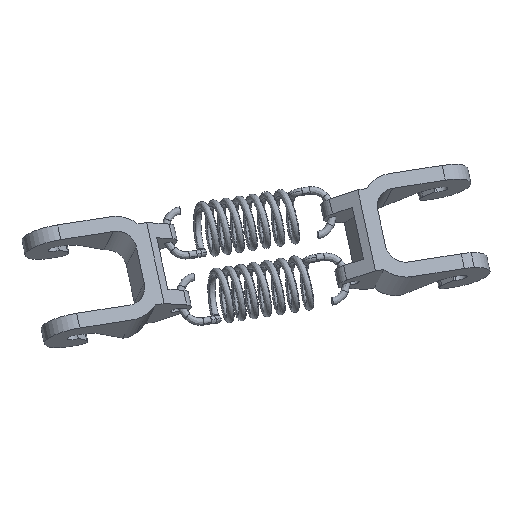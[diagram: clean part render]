
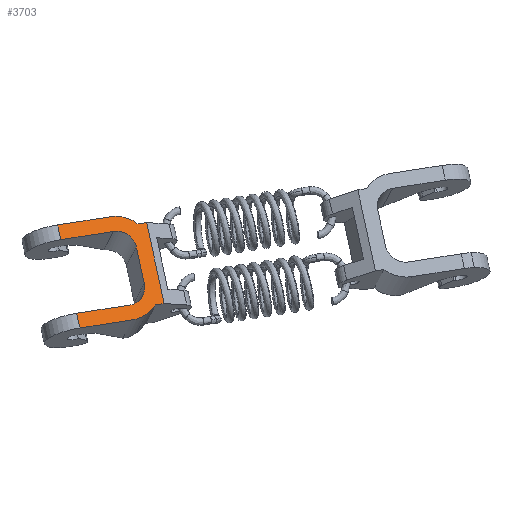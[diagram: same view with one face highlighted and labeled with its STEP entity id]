
A CAD part, isometric view. The second image highlights one B-rep face of the part: STEP entity #3703.
In plain terms, the highlighted planar face has unit normal (-0.309, -0.535, 0.786).
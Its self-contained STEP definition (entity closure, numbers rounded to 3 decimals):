
#63 = EDGE_CURVE ( 'NONE', #5328, #1477, #9023, .T. ) ;
#128 = EDGE_CURVE ( 'NONE', #10073, #5153, #7569, .T. ) ;
#378 = DIRECTION ( 'NONE',  ( -0.309, -0.535, 0.786 ) ) ;
#434 = ORIENTED_EDGE ( 'NONE', *, *, #9307, .F. ) ;
#668 = EDGE_CURVE ( 'NONE', #11157, #1309, #6870, .T. ) ;
#728 = ORIENTED_EDGE ( 'NONE', *, *, #668, .T. ) ;
#930 = EDGE_LOOP ( 'NONE', ( #6616, #434, #8939, #10645, #1038, #6820, #7020, #6173, #1444, #2699, #3812, #7501, #728, #8091, #1712, #5124 ) ) ;
#971 = CARTESIAN_POINT ( 'NONE',  ( -72.423, -53.44, -876.67 ) ) ;
#1038 = ORIENTED_EDGE ( 'NONE', *, *, #5462, .F. ) ;
#1153 = VECTOR ( 'NONE', #4285, 1000. ) ;
#1234 = LINE ( 'NONE', #4969, #4423 ) ;
#1236 = VECTOR ( 'NONE', #11167, 1000. ) ;
#1309 = VERTEX_POINT ( 'NONE', #7170 ) ;
#1444 = ORIENTED_EDGE ( 'NONE', *, *, #2400, .F. ) ;
#1477 = VERTEX_POINT ( 'NONE', #7293 ) ;
#1580 = VERTEX_POINT ( 'NONE', #8310 ) ;
#1608 = VECTOR ( 'NONE', #10403, 1000. ) ;
#1680 = CIRCLE ( 'NONE', #10322, 5. ) ;
#1712 = ORIENTED_EDGE ( 'NONE', *, *, #7425, .F. ) ;
#1807 = VECTOR ( 'NONE', #2788, 1000. ) ;
#1809 = VERTEX_POINT ( 'NONE', #4462 ) ;
#2010 = CARTESIAN_POINT ( 'NONE',  ( -75.114, -30.101, -861.836 ) ) ;
#2056 = EDGE_CURVE ( 'NONE', #6232, #1580, #7006, .T. ) ;
#2085 = VECTOR ( 'NONE', #10775, 1000. ) ;
#2114 = CARTESIAN_POINT ( 'NONE',  ( -62.989, -37.101, -861.836 ) ) ;
#2116 = DIRECTION ( 'NONE',  ( 0.309, 0.535, -0.786 ) ) ;
#2359 = LINE ( 'NONE', #4112, #1153 ) ;
#2398 = CARTESIAN_POINT ( 'NONE',  ( -68.885, -47.313, -871.107 ) ) ;
#2400 = EDGE_CURVE ( 'NONE', #1477, #8970, #3925, .T. ) ;
#2441 = CIRCLE ( 'NONE', #9160, 9. ) ;
#2474 = EDGE_CURVE ( 'NONE', #1809, #6962, #1680, .T. ) ;
#2635 = DIRECTION ( 'NONE',  ( 0.309, 0.535, -0.786 ) ) ;
#2687 = CARTESIAN_POINT ( 'NONE',  ( -68.885, -47.313, -871.107 ) ) ;
#2699 = ORIENTED_EDGE ( 'NONE', *, *, #63, .F. ) ;
#2788 = DIRECTION ( 'NONE',  ( -0.866, 0.5, 0. ) ) ;
#2794 = EDGE_CURVE ( 'NONE', #7813, #5328, #2441, .T. ) ;
#2965 = DIRECTION ( 'NONE',  ( 0.309, 0.535, -0.786 ) ) ;
#3053 = DIRECTION ( 'NONE',  ( 0., -0.827, -0.563 ) ) ;
#3077 = CARTESIAN_POINT ( 'NONE',  ( -68.885, -47.313, -871.107 ) ) ;
#3187 = LINE ( 'NONE', #3241, #3302 ) ;
#3241 = CARTESIAN_POINT ( 'NONE',  ( -75.114, -30.101, -861.836 ) ) ;
#3302 = VECTOR ( 'NONE', #10567, 1000. ) ;
#3577 = CARTESIAN_POINT ( 'NONE',  ( -68.885, -54.752, -876.173 ) ) ;
#3703 = ADVANCED_FACE ( 'NONE', ( #8425 ), #10353, .F. ) ;
#3812 = ORIENTED_EDGE ( 'NONE', *, *, #2794, .F. ) ;
#3890 = CARTESIAN_POINT ( 'NONE',  ( -65.434, -54.752, -874.816 ) ) ;
#3925 = LINE ( 'NONE', #8313, #5889 ) ;
#4112 = CARTESIAN_POINT ( 'NONE',  ( -63.45, -55.898, -874.816 ) ) ;
#4285 = DIRECTION ( 'NONE',  ( 0.393, 0.681, 0.618 ) ) ;
#4301 = DIRECTION ( 'NONE',  ( -0.309, -0.535, 0.786 ) ) ;
#4423 = VECTOR ( 'NONE', #7603, 1000. ) ;
#4462 = CARTESIAN_POINT ( 'NONE',  ( -68.885, -51.446, -873.921 ) ) ;
#4517 = EDGE_CURVE ( 'NONE', #11157, #7813, #11098, .T. ) ;
#4581 = LINE ( 'NONE', #2114, #6928 ) ;
#4646 = DIRECTION ( 'NONE',  ( -0.866, 0.5, 0. ) ) ;
#4777 = CARTESIAN_POINT ( 'NONE',  ( -54.802, -40.92, -861.218 ) ) ;
#4824 = CARTESIAN_POINT ( 'NONE',  ( -64.955, -40.505, -864.927 ) ) ;
#4969 = CARTESIAN_POINT ( 'NONE',  ( -56.787, -39.774, -861.218 ) ) ;
#5091 = CARTESIAN_POINT ( 'NONE',  ( -70.851, -50.717, -874.198 ) ) ;
#5124 = ORIENTED_EDGE ( 'NONE', *, *, #9672, .F. ) ;
#5148 = EDGE_CURVE ( 'NONE', #7161, #1809, #10512, .T. ) ;
#5153 = VERTEX_POINT ( 'NONE', #6159 ) ;
#5314 = VERTEX_POINT ( 'NONE', #7822 ) ;
#5328 = VERTEX_POINT ( 'NONE', #11309 ) ;
#5354 = CARTESIAN_POINT ( 'NONE',  ( -64.955, -40.505, -864.927 ) ) ;
#5462 = EDGE_CURVE ( 'NONE', #6962, #6232, #11786, .T. ) ;
#5763 = CARTESIAN_POINT ( 'NONE',  ( -64.555, -49.813, -871.107 ) ) ;
#5836 = CARTESIAN_POINT ( 'NONE',  ( -68.885, -47.313, -871.107 ) ) ;
#5889 = VECTOR ( 'NONE', #10360, 1000. ) ;
#5910 = AXIS2_PLACEMENT_3D ( 'NONE', #2687, #4301, #11614 ) ;
#5945 = DIRECTION ( 'NONE',  ( 0.309, 0.535, -0.786 ) ) ;
#6159 = CARTESIAN_POINT ( 'NONE',  ( -61.417, -34.378, -859.364 ) ) ;
#6173 = ORIENTED_EDGE ( 'NONE', *, *, #6217, .F. ) ;
#6217 = EDGE_CURVE ( 'NONE', #8970, #7161, #8632, .T. ) ;
#6232 = VERTEX_POINT ( 'NONE', #8927 ) ;
#6614 = DIRECTION ( 'NONE',  ( 0., -0.827, -0.563 ) ) ;
#6616 = ORIENTED_EDGE ( 'NONE', *, *, #128, .F. ) ;
#6619 = DIRECTION ( 'NONE',  ( 0., 0.827, 0.563 ) ) ;
#6754 = CIRCLE ( 'NONE', #7701, 9. ) ;
#6820 = ORIENTED_EDGE ( 'NONE', *, *, #2474, .F. ) ;
#6870 = LINE ( 'NONE', #7498, #1236 ) ;
#6928 = VECTOR ( 'NONE', #4646, 1000. ) ;
#6962 = VERTEX_POINT ( 'NONE', #5763 ) ;
#7006 = CIRCLE ( 'NONE', #8361, 5. ) ;
#7020 = ORIENTED_EDGE ( 'NONE', *, *, #5148, .F. ) ;
#7161 = VERTEX_POINT ( 'NONE', #5091 ) ;
#7170 = CARTESIAN_POINT ( 'NONE',  ( -63.45, -55.898, -874.816 ) ) ;
#7193 = CARTESIAN_POINT ( 'NONE',  ( -68.885, -47.313, -871.107 ) ) ;
#7246 = AXIS2_PLACEMENT_3D ( 'NONE', #7193, #2635, #3053 ) ;
#7293 = CARTESIAN_POINT ( 'NONE',  ( -84.547, -46.44, -876.67 ) ) ;
#7339 = DIRECTION ( 'NONE',  ( 0., -0.827, -0.563 ) ) ;
#7425 = EDGE_CURVE ( 'NONE', #5314, #10055, #1234, .T. ) ;
#7498 = CARTESIAN_POINT ( 'NONE',  ( -65.434, -54.752, -874.816 ) ) ;
#7501 = ORIENTED_EDGE ( 'NONE', *, *, #4517, .F. ) ;
#7569 = LINE ( 'NONE', #8418, #1608 ) ;
#7603 = DIRECTION ( 'NONE',  ( 0.866, -0.5, 0. ) ) ;
#7701 = AXIS2_PLACEMENT_3D ( 'NONE', #4824, #2116, #6614 ) ;
#7813 = VERTEX_POINT ( 'NONE', #3577 ) ;
#7822 = CARTESIAN_POINT ( 'NONE',  ( -56.787, -39.774, -861.218 ) ) ;
#8091 = ORIENTED_EDGE ( 'NONE', *, *, #8124, .T. ) ;
#8124 = EDGE_CURVE ( 'NONE', #1309, #10055, #2359, .T. ) ;
#8170 = CARTESIAN_POINT ( 'NONE',  ( -82.975, -43.717, -874.198 ) ) ;
#8310 = CARTESIAN_POINT ( 'NONE',  ( -62.989, -37.101, -861.836 ) ) ;
#8313 = CARTESIAN_POINT ( 'NONE',  ( -84.547, -46.44, -876.67 ) ) ;
#8361 = AXIS2_PLACEMENT_3D ( 'NONE', #5354, #9206, #7339 ) ;
#8418 = CARTESIAN_POINT ( 'NONE',  ( -73.542, -27.378, -859.364 ) ) ;
#8425 = FACE_OUTER_BOUND ( 'NONE', #930, .T. ) ;
#8632 = LINE ( 'NONE', #10610, #9387 ) ;
#8664 = CARTESIAN_POINT ( 'NONE',  ( -73.542, -27.378, -859.364 ) ) ;
#8796 = AXIS2_PLACEMENT_3D ( 'NONE', #3077, #2965, #6619 ) ;
#8809 = DIRECTION ( 'NONE',  ( 0.866, -0.5, 0. ) ) ;
#8927 = CARTESIAN_POINT ( 'NONE',  ( -60.625, -43.005, -864.927 ) ) ;
#8939 = ORIENTED_EDGE ( 'NONE', *, *, #9052, .F. ) ;
#8970 = VERTEX_POINT ( 'NONE', #8170 ) ;
#9023 = LINE ( 'NONE', #971, #1807 ) ;
#9052 = EDGE_CURVE ( 'NONE', #1580, #9991, #4581, .T. ) ;
#9160 = AXIS2_PLACEMENT_3D ( 'NONE', #2398, #5945, #9556 ) ;
#9206 = DIRECTION ( 'NONE',  ( -0.309, -0.535, 0.786 ) ) ;
#9307 = EDGE_CURVE ( 'NONE', #9991, #10073, #3187, .T. ) ;
#9387 = VECTOR ( 'NONE', #8809, 1000. ) ;
#9508 = DIRECTION ( 'NONE',  ( 0., -0.827, -0.563 ) ) ;
#9556 = DIRECTION ( 'NONE',  ( 0., -0.827, -0.563 ) ) ;
#9672 = EDGE_CURVE ( 'NONE', #5153, #5314, #6754, .T. ) ;
#9816 = CARTESIAN_POINT ( 'NONE',  ( -64.555, -49.813, -871.107 ) ) ;
#9991 = VERTEX_POINT ( 'NONE', #2010 ) ;
#10055 = VERTEX_POINT ( 'NONE', #4777 ) ;
#10073 = VERTEX_POINT ( 'NONE', #8664 ) ;
#10322 = AXIS2_PLACEMENT_3D ( 'NONE', #5836, #378, #9508 ) ;
#10353 = PLANE ( 'NONE',  #8796 ) ;
#10360 = DIRECTION ( 'NONE',  ( 0.393, 0.681, 0.618 ) ) ;
#10403 = DIRECTION ( 'NONE',  ( 0.866, -0.5, 0. ) ) ;
#10512 = CIRCLE ( 'NONE', #5910, 5. ) ;
#10567 = DIRECTION ( 'NONE',  ( 0.393, 0.681, 0.618 ) ) ;
#10610 = CARTESIAN_POINT ( 'NONE',  ( -82.975, -43.717, -874.198 ) ) ;
#10645 = ORIENTED_EDGE ( 'NONE', *, *, #2056, .F. ) ;
#10775 = DIRECTION ( 'NONE',  ( 0.393, 0.681, 0.618 ) ) ;
#11098 = CIRCLE ( 'NONE', #7246, 9. ) ;
#11157 = VERTEX_POINT ( 'NONE', #3890 ) ;
#11167 = DIRECTION ( 'NONE',  ( 0.866, -0.5, 0. ) ) ;
#11309 = CARTESIAN_POINT ( 'NONE',  ( -72.423, -53.44, -876.67 ) ) ;
#11614 = DIRECTION ( 'NONE',  ( 0., -0.827, -0.563 ) ) ;
#11786 = LINE ( 'NONE', #9816, #2085 ) ;
